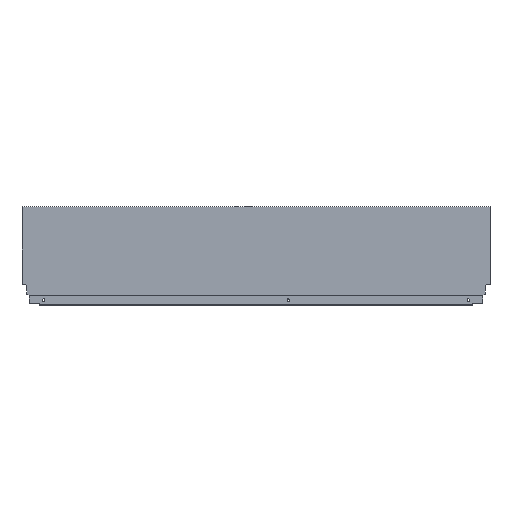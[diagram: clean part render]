
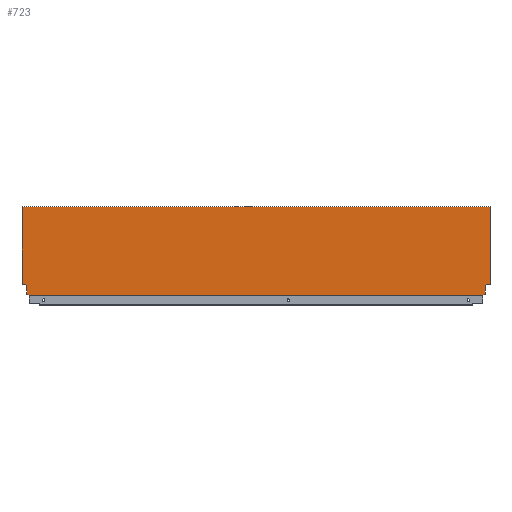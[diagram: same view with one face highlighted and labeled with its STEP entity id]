
A CAD part, top view. The second image highlights one B-rep face of the part: STEP entity #723.
In plain terms, the highlighted planar face has unit normal (0, 0, 1).
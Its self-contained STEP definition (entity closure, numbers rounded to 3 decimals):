
#97 = CARTESIAN_POINT ( 'NONE',  ( -867., 164.7, 7.5 ) ) ;
#99 = DIRECTION ( 'NONE',  ( 1., 0., 0. ) ) ;
#100 = CARTESIAN_POINT ( 'NONE',  ( -13.004, 1.146, 7.5 ) ) ;
#142 = DIRECTION ( 'NONE',  ( 1., 0., 0. ) ) ;
#143 = CARTESIAN_POINT ( 'NONE',  ( -859.94, 21.2, 7.5 ) ) ;
#144 = CARTESIAN_POINT ( 'NONE',  ( -858.1, 2.64, 7.5 ) ) ;
#145 = DIRECTION ( 'NONE',  ( -0.94, 0.342, 0. ) ) ;
#146 = CARTESIAN_POINT ( 'NONE',  ( -872., 21.2, 7.5 ) ) ;
#147 = CARTESIAN_POINT ( 'NONE',  ( -858.1, 10.765, 7.5 ) ) ;
#148 = DIRECTION ( 'NONE',  ( -1., 0., 0. ) ) ;
#149 = DIRECTION ( 'NONE',  ( 0., 1., 0. ) ) ;
#151 = DIRECTION ( 'NONE',  ( 0., -1., 0. ) ) ;
#152 = CARTESIAN_POINT ( 'NONE',  ( -867., 0., 7.5 ) ) ;
#154 = DIRECTION ( 'NONE',  ( -0.174, 0.985, 0. ) ) ;
#155 = CARTESIAN_POINT ( 'NONE',  ( 0., 0., 7.5 ) ) ;
#156 = DIRECTION ( 'NONE',  ( -0.174, -0.985, 0. ) ) ;
#157 = CARTESIAN_POINT ( 'NONE',  ( -8.9, 10.765, 7.5 ) ) ;
#158 = DIRECTION ( 'NONE',  ( 0., -1., 0. ) ) ;
#159 = DIRECTION ( 'NONE',  ( 0., -1., 0. ) ) ;
#160 = CARTESIAN_POINT ( 'NONE',  ( -7.06, 21.2, 7.5 ) ) ;
#161 = CARTESIAN_POINT ( 'NONE',  ( -8.9, 2.64, 7.5 ) ) ;
#162 = DIRECTION ( 'NONE',  ( -0.94, -0.342, 0. ) ) ;
#163 = CARTESIAN_POINT ( 'NONE',  ( 0., 21.2, 7.5 ) ) ;
#166 = CARTESIAN_POINT ( 'NONE',  ( -867., 0., 7.5 ) ) ;
#167 = DIRECTION ( 'NONE',  ( 0., -1., 0. ) ) ;
#168 = DIRECTION ( 'NONE',  ( -1., 0., 0. ) ) ;
#305 = ORIENTED_EDGE ( 'NONE', *, *, #1409, .F. ) ;
#309 = ORIENTED_EDGE ( 'NONE', *, *, #1414, .F. ) ;
#321 = ORIENTED_EDGE ( 'NONE', *, *, #1413, .F. ) ;
#336 = ORIENTED_EDGE ( 'NONE', *, *, #1415, .F. ) ;
#366 = ORIENTED_EDGE ( 'NONE', *, *, #1421, .F. ) ;
#367 = ORIENTED_EDGE ( 'NONE', *, *, #1420, .F. ) ;
#368 = ORIENTED_EDGE ( 'NONE', *, *, #1419, .F. ) ;
#369 = ORIENTED_EDGE ( 'NONE', *, *, #1348, .F. ) ;
#370 = ORIENTED_EDGE ( 'NONE', *, *, #1423, .T. ) ;
#371 = ORIENTED_EDGE ( 'NONE', *, *, #1418, .F. ) ;
#372 = ORIENTED_EDGE ( 'NONE', *, *, #1416, .F. ) ;
#380 = ORIENTED_EDGE ( 'NONE', *, *, #1422, .F. ) ;
#381 = ORIENTED_EDGE ( 'NONE', *, *, #1417, .T. ) ;
#395 = ORIENTED_EDGE ( 'NONE', *, *, #1411, .F. ) ;
#527 = VECTOR ( 'NONE', #957, 1000. ) ;
#539 = LINE ( 'NONE', #960, #527 ) ;
#583 = FACE_OUTER_BOUND ( 'NONE', #636, .T. ) ;
#636 = EDGE_LOOP ( 'NONE', ( #381, #380, #366, #367, #368, #369, #370, #371, #372, #336, #321, #395, #309, #305 ) ) ;
#723 = ADVANCED_FACE ( 'NONE', ( #583 ), #1151, .T. ) ;
#802 = LINE ( 'NONE', #100, #825 ) ;
#807 = LINE ( 'NONE', #97, #808 ) ;
#808 = VECTOR ( 'NONE', #99, 1000. ) ;
#811 = LINE ( 'NONE', #163, #812 ) ;
#812 = VECTOR ( 'NONE', #168, 1000. ) ;
#815 = LINE ( 'NONE', #160, #816 ) ;
#816 = VECTOR ( 'NONE', #156, 1000. ) ;
#817 = LINE ( 'NONE', #155, #818 ) ;
#818 = VECTOR ( 'NONE', #158, 1000. ) ;
#819 = LINE ( 'NONE', #157, #820 ) ;
#820 = VECTOR ( 'NONE', #159, 1000. ) ;
#821 = LINE ( 'NONE', #161, #822 ) ;
#822 = VECTOR ( 'NONE', #162, 1000. ) ;
#823 = LINE ( 'NONE', #166, #824 ) ;
#824 = VECTOR ( 'NONE', #167, 1000. ) ;
#825 = VECTOR ( 'NONE', #151, 1000. ) ;
#827 = LINE ( 'NONE', #144, #828 ) ;
#828 = VECTOR ( 'NONE', #145, 1000. ) ;
#829 = LINE ( 'NONE', #147, #830 ) ;
#830 = VECTOR ( 'NONE', #149, 1000. ) ;
#831 = LINE ( 'NONE', #143, #832 ) ;
#832 = VECTOR ( 'NONE', #154, 1000. ) ;
#833 = LINE ( 'NONE', #146, #834 ) ;
#834 = VECTOR ( 'NONE', #148, 1000. ) ;
#835 = LINE ( 'NONE', #152, #836 ) ;
#836 = VECTOR ( 'NONE', #142, 1000. ) ;
#957 = DIRECTION ( 'NONE',  ( 0., 1., 0. ) ) ;
#960 = CARTESIAN_POINT ( 'NONE',  ( -853.996, 1.146, 7.5 ) ) ;
#987 = CARTESIAN_POINT ( 'NONE',  ( -8.9, 2.64, 7.5 ) ) ;
#988 = CARTESIAN_POINT ( 'NONE',  ( -7.06, 21.2, 7.5 ) ) ;
#990 = CARTESIAN_POINT ( 'NONE',  ( -859.94, 21.2, 7.5 ) ) ;
#995 = CARTESIAN_POINT ( 'NONE',  ( -858.1, 2.64, 7.5 ) ) ;
#1007 = CARTESIAN_POINT ( 'NONE',  ( -13.004, 1.146, 7.5 ) ) ;
#1030 = CARTESIAN_POINT ( 'NONE',  ( -858.1, 10.765, 7.5 ) ) ;
#1048 = CARTESIAN_POINT ( 'NONE',  ( -853.996, 1.146, 7.5 ) ) ;
#1050 = CARTESIAN_POINT ( 'NONE',  ( -8.9, 10.765, 7.5 ) ) ;
#1051 = CARTESIAN_POINT ( 'NONE',  ( -13.004, 0., 7.5 ) ) ;
#1053 = CARTESIAN_POINT ( 'NONE',  ( -867., 21.2, 7.5 ) ) ;
#1054 = CARTESIAN_POINT ( 'NONE',  ( -853.996, 0., 7.5 ) ) ;
#1059 = VERTEX_POINT ( 'NONE', #1073 ) ;
#1064 = VERTEX_POINT ( 'NONE', #1072 ) ;
#1066 = CARTESIAN_POINT ( 'NONE',  ( -867., 164.7, 7.5 ) ) ;
#1072 = CARTESIAN_POINT ( 'NONE',  ( 0., 21.2, 7.5 ) ) ;
#1073 = CARTESIAN_POINT ( 'NONE',  ( 0., 164.7, 7.5 ) ) ;
#1104 = VERTEX_POINT ( 'NONE', #1066 ) ;
#1135 = VERTEX_POINT ( 'NONE', #1054 ) ;
#1137 = DIRECTION ( 'NONE',  ( 1., 0., 0. ) ) ;
#1138 = VERTEX_POINT ( 'NONE', #1053 ) ;
#1139 = DIRECTION ( 'NONE',  ( 0., 0., 1. ) ) ;
#1144 = VERTEX_POINT ( 'NONE', #1051 ) ;
#1145 = VERTEX_POINT ( 'NONE', #1050 ) ;
#1147 = CARTESIAN_POINT ( 'NONE',  ( -867., 0., 7.5 ) ) ;
#1151 = PLANE ( 'NONE',  #1509 ) ;
#1153 = VERTEX_POINT ( 'NONE', #1048 ) ;
#1204 = VERTEX_POINT ( 'NONE', #1030 ) ;
#1255 = VERTEX_POINT ( 'NONE', #1007 ) ;
#1293 = VERTEX_POINT ( 'NONE', #995 ) ;
#1312 = VERTEX_POINT ( 'NONE', #990 ) ;
#1314 = VERTEX_POINT ( 'NONE', #988 ) ;
#1319 = VERTEX_POINT ( 'NONE', #987 ) ;
#1348 = EDGE_CURVE ( 'NONE', #1135, #1153, #539, .T. ) ;
#1409 = EDGE_CURVE ( 'NONE', #1104, #1059, #807, .T. ) ;
#1411 = EDGE_CURVE ( 'NONE', #1064, #1314, #811, .T. ) ;
#1413 = EDGE_CURVE ( 'NONE', #1314, #1145, #815, .T. ) ;
#1414 = EDGE_CURVE ( 'NONE', #1059, #1064, #817, .T. ) ;
#1415 = EDGE_CURVE ( 'NONE', #1145, #1319, #819, .T. ) ;
#1416 = EDGE_CURVE ( 'NONE', #1319, #1255, #821, .T. ) ;
#1417 = EDGE_CURVE ( 'NONE', #1104, #1138, #823, .T. ) ;
#1418 = EDGE_CURVE ( 'NONE', #1255, #1144, #802, .T. ) ;
#1419 = EDGE_CURVE ( 'NONE', #1153, #1293, #827, .T. ) ;
#1420 = EDGE_CURVE ( 'NONE', #1293, #1204, #829, .T. ) ;
#1421 = EDGE_CURVE ( 'NONE', #1204, #1312, #831, .T. ) ;
#1422 = EDGE_CURVE ( 'NONE', #1312, #1138, #833, .T. ) ;
#1423 = EDGE_CURVE ( 'NONE', #1135, #1144, #835, .T. ) ;
#1509 = AXIS2_PLACEMENT_3D ( 'NONE', #1147, #1139, #1137 ) ;
